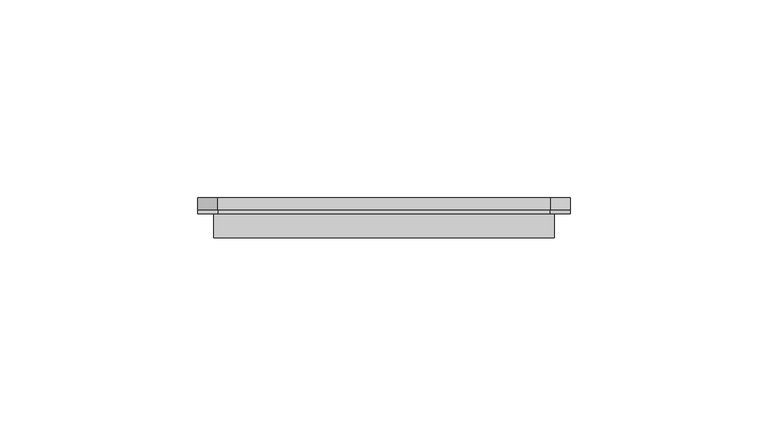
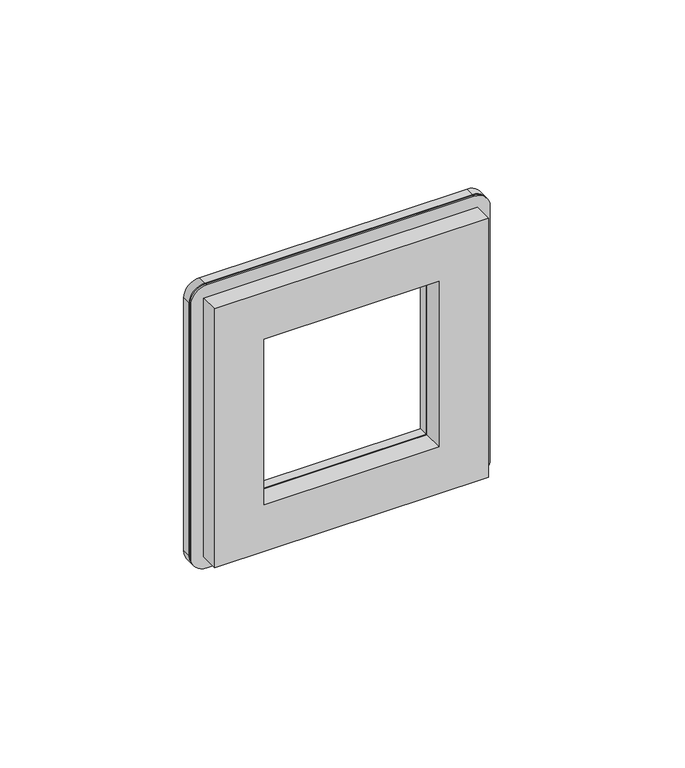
"""IFC4 building model written with IfcOpenShell, lengths in millimetres: proxy geometry, IEK_Brite_Рамка : x1_РУ-1-1-Бр металл алюм. RE."""

import ifcopenshell
import ifcopenshell.guid

model = None  # the IFC model being written
_history = None  # IfcOwnerHistory: only IFC2X3 demands one
_inside = {}  # id of a spatial element -> (the spatial element, [elements in it])
_under = {}  # id of a project, library or spatial element -> (it, [spatial elements below it])
_declared = {}  # id of a project -> (the project, [libraries it declares])
_typed = {}  # id of a type object -> (the type object, [elements of that type])
_made_of = {}  # id of a material, layer set ... -> (it, [elements and type objects made of it])


def new_model(schema):
    """Start an empty IFC model of exactly this schema.

    Asked for "IFC4X3", IfcOpenShell would pick the latest addendum, in which some entities
    have other attributes; the version numbers below select the first issue.
    IFC2X3 requires an IfcOwnerHistory on every rooted entity: one is made here for all.
    """
    global model, _history
    if schema == "IFC4X3":
        model = ifcopenshell.file(schema_version=(4, 3, 0, 0))
    else:
        model = ifcopenshell.file(schema=schema)
    _inside.clear()
    _under.clear()
    _declared.clear()
    _typed.clear()
    _made_of.clear()
    _history = None
    if model.schema == "IFC2X3":
        org = make("IfcOrganization", Name="unknown")
        user = make(
            "IfcPersonAndOrganization",
            ThePerson=make("IfcPerson", FamilyName="unknown"),
            TheOrganization=org,
        )
        app = make(
            "IfcApplication",
            ApplicationDeveloper=org,
            Version="unknown",
            ApplicationFullName="unknown",
            ApplicationIdentifier="unknown",
        )
        _history = make(
            "IfcOwnerHistory",
            OwningUser=user,
            OwningApplication=app,
            ChangeAction="ADDED",
            CreationDate=0,
        )
    return model


def make(cls, **values):
    """One entity of the class cls with the attributes given. An attribute that is None is left unset."""
    return model.create_entity(
        cls, **{name: value for name, value in values.items() if value is not None}
    )


def rooted(cls, **values):
    """An entity with a GlobalId (a new one), such as an element, a storey or a relation."""
    return make(cls, GlobalId=ifcopenshell.guid.new(), OwnerHistory=_history, **values)


def si_unit(unit_type, name, prefix=None):
    """IfcSIUnit, for example si_unit("LENGTHUNIT", "METRE", prefix="MILLI")."""
    return make("IfcSIUnit", UnitType=unit_type, Prefix=prefix, Name=name)


def assignment(units):
    """IfcUnitAssignment: the units of a project."""
    return None if units is None else make("IfcUnitAssignment", Units=units)


def point(xyz):
    """IfcCartesianPoint."""
    return None if xyz is None else make("IfcCartesianPoint", Coordinates=xyz)


def direction(xyz):
    """IfcDirection."""
    return None if xyz is None else make("IfcDirection", DirectionRatios=xyz)


def frame(location, z_axis=None, x_axis=None):
    """IfcAxis2Placement3D, a coordinate frame: its origin and axes. An axis left out is left unset."""
    return make(
        "IfcAxis2Placement3D",
        Location=point(location),
        Axis=direction(z_axis),
        RefDirection=direction(x_axis),
    )


def frame_2d(location, x_axis=None):
    """IfcAxis2Placement2D, a coordinate frame in the plane: its origin and x axis."""
    return make(
        "IfcAxis2Placement2D", Location=point(location), RefDirection=direction(x_axis)
    )


def origin():
    """The frame at (0, 0, 0) with its axes left unset."""
    return frame((0.0, 0.0, 0.0))


def place(relative_to, where):
    """IfcLocalPlacement: puts the frame where relative to a parent placement (None: the world)."""
    return make(
        "IfcLocalPlacement", PlacementRelTo=relative_to, RelativePlacement=where
    )


def context(
    kind, dimensions, precision=None, world=None, true_north=None, identifier=None
):
    """IfcGeometricRepresentationContext, for example the 3D "Model" context."""
    return make(
        "IfcGeometricRepresentationContext",
        ContextIdentifier=identifier,
        ContextType=kind,
        CoordinateSpaceDimension=dimensions,
        Precision=precision,
        WorldCoordinateSystem=world,
        TrueNorth=true_north,
    )


def project(units=None, contexts=None):
    """IfcProject with its units and contexts."""
    return rooted(
        "IfcProject",
        Name="project",
        RepresentationContexts=contexts,
        UnitsInContext=assignment(units),
    )


def spatial(cls, under=None, at=None, **own):
    """A site, building, storey or space (cls), placed at a placement, below another one or the project."""
    s = rooted(cls, ObjectPlacement=at, **own)
    if under is not None:
        _under.setdefault(under.id(), (under, []))[1].append(s)
    return s


def polyline(points):
    """IfcPolyline through the points."""
    return make("IfcPolyline", Points=[point(p) for p in points])


def circle_curve(where, radius):
    """IfcCircle in the frame where."""
    return make("IfcCircle", Position=where, Radius=radius)


def trimmed(basis, trim1, trim2, sense, master):
    """IfcTrimmedCurve: the piece of a basis curve between two trims."""
    return make(
        "IfcTrimmedCurve",
        BasisCurve=basis,
        Trim1=trim1,
        Trim2=trim2,
        SenseAgreement=sense,
        MasterRepresentation=master,
    )


def segment(curve, same_sense, transition):
    """IfcCompositeCurveSegment."""
    return make(
        "IfcCompositeCurveSegment",
        Transition=transition,
        SameSense=same_sense,
        ParentCurve=curve,
    )


def composite_curve(segments, self_intersect=None):
    """IfcCompositeCurve: segments joined end to end."""
    return make("IfcCompositeCurve", Segments=segments, SelfIntersect=self_intersect)


def outline(outer, holes=None, kind="AREA"):
    """IfcArbitraryClosedProfileDef: a profile drawn as a closed curve; with holes, ...WithVoids."""
    if holes is None:
        return make("IfcArbitraryClosedProfileDef", ProfileType=kind, OuterCurve=outer)
    return make(
        "IfcArbitraryProfileDefWithVoids",
        ProfileType=kind,
        OuterCurve=outer,
        InnerCurves=holes,
    )


def extrude(swept, where, along, depth):
    """IfcExtrudedAreaSolid: the profile swept, set in the frame where, extruded along a direction by depth."""
    return make(
        "IfcExtrudedAreaSolid",
        SweptArea=swept,
        Position=where,
        ExtrudedDirection=direction(along),
        Depth=depth,
    )


def shape(context_of_items, identifier, shape_type, items):
    """IfcShapeRepresentation: the items that make up one representation, for example the "Body"."""
    return make(
        "IfcShapeRepresentation",
        ContextOfItems=context_of_items,
        RepresentationIdentifier=identifier,
        RepresentationType=shape_type,
        Items=items,
    )


def source(mapping_origin, context_of_items, identifier, shape_type, items):
    """IfcRepresentationMap: a shape defined once, which mapped items show again and again."""
    return make(
        "IfcRepresentationMap",
        MappingOrigin=mapping_origin,
        MappedRepresentation=shape(context_of_items, identifier, shape_type, items),
    )


def transform(
    local_origin,
    x_axis=None,
    y_axis=None,
    z_axis=None,
    scale=None,
    scale2=None,
    scale3=None,
    uniform=True,
):
    """IfcCartesianTransformationOperator3D, or its non-uniform kind. x_axis, y_axis, z_axis: its Axis1, 2, 3."""
    if uniform:
        return make(
            "IfcCartesianTransformationOperator3D",
            Axis1=direction(x_axis),
            Axis2=direction(y_axis),
            LocalOrigin=point(local_origin),
            Scale=scale,
            Axis3=direction(z_axis),
        )
    return make(
        "IfcCartesianTransformationOperator3DnonUniform",
        Axis1=direction(x_axis),
        Axis2=direction(y_axis),
        LocalOrigin=point(local_origin),
        Scale=scale,
        Axis3=direction(z_axis),
        Scale2=scale2,
        Scale3=scale3,
    )


def mapped(mapping_source, mapping_target):
    """IfcMappedItem: shows the shape of a source again, moved by a transform."""
    return make(
        "IfcMappedItem", MappingSource=mapping_source, MappingTarget=mapping_target
    )


def made_of(thing, what):
    """Note that an element or type object is made of a material, layer set ...; save() writes the relation."""
    if what is not None:
        _made_of.setdefault(what.id(), (what, []))[1].append(thing)
    return thing


def element(
    cls,
    number,
    at=None,
    inside=None,
    cuts=None,
    type_object=None,
    material=None,
    context=None,
    identifier="Body",
    shape_type=None,
    held_by="IfcProductDefinitionShape",
    body=None,
    shapes=None,
    **own,
):
    """One element of the class cls, such as IfcWall. Its Tag is "e" and its number.

    at: its placement. inside: the storey or other place that contains it. cuts: it is an
    opening in that element (IfcRelVoidsElement). A single representation is given by context,
    identifier, shape_type and body (its items); several are given by shapes. held_by: the class
    of the entity that holds the representations. save() writes the other relations.
    """
    e = rooted(cls, Tag="e%d" % number, ObjectPlacement=at, **own)
    if body is not None:
        shapes = [shape(context, identifier, shape_type, body)]
    if shapes is not None:
        e.Representation = make(held_by, Representations=shapes)
    if inside is not None:
        _inside.setdefault(inside.id(), (inside, []))[1].append(e)
    if cuts is not None:
        rooted(
            "IfcRelVoidsElement", RelatingBuildingElement=cuts, RelatedOpeningElement=e
        )
    if type_object is not None:
        _typed.setdefault(type_object.id(), (type_object, []))[1].append(e)
    return made_of(e, material)


def aggregate(whole, parts):
    """IfcRelAggregates: a whole, such as a stair, and the parts it consists of."""
    return rooted("IfcRelAggregates", RelatingObject=whole, RelatedObjects=parts)


def save(model, path):
    """Write the relations noted so far, then the file.

    IfcRelAggregates (storeys below a building ...), IfcRelContainedInSpatialStructure (elements
    in a storey), IfcRelDefinesByType, IfcRelAssociatesMaterial and IfcRelDeclares: one each for
    every whole, place, type object, material and project.
    """
    for whole, parts in _under.values():
        aggregate(whole, parts)
    for where, things in _inside.values():
        rooted(
            "IfcRelContainedInSpatialStructure",
            RelatedElements=things,
            RelatingStructure=where,
        )
    for kind, things in _typed.values():
        rooted("IfcRelDefinesByType", RelatedObjects=things, RelatingType=kind)
    for what, things in _made_of.values():
        rooted("IfcRelAssociatesMaterial", RelatedObjects=things, RelatingMaterial=what)
    for by, libraries in _declared.values():
        rooted("IfcRelDeclares", RelatingContext=by, RelatedDefinitions=libraries)
    model.write(path)


def plane_surface(at):
    """IfcPlane: the flat surface through the origin of the frame at, square to its z axis."""
    return make("IfcPlane", Position=at)


def cylinder_surface(at, radius):
    """IfcCylindricalSurface: all points at the distance radius from the z axis of the frame at."""
    return make("IfcCylindricalSurface", Position=at, Radius=radius)


def advanced_brep(points, edges, surfaces, faces):
    """IfcAdvancedBrep: a solid bounded by faces that lie on surfaces and meet in shared edges.

    An edge is (start, end): straight between two places in points (the first is 0);
    or (start, end, curve); or (start, end, curve, False) where it runs against its curve.
    A face is (place in surfaces, loops), or (place, loops, False) where it looks against
    its surface's normal. A loop lists edges by number (the first is 1), with a minus sign
    where the edge is run from its end to its start. The first loop is the outer one.
    """
    corners = [point(p) for p in points]
    vertices = [make("IfcVertexPoint", VertexGeometry=c) for c in corners]
    made = []
    for start, end, *more in edges:
        made.append(
            make(
                "IfcEdgeCurve",
                EdgeStart=vertices[start],
                EdgeEnd=vertices[end],
                EdgeGeometry=more[0] if more else make("IfcPolyline", Points=[corners[start], corners[end]]),
                SameSense=more[1] if len(more) > 1 else True,
            )
        )
    hull = []
    for where, loops, *sense in faces:
        bounds = []
        for j, loop in enumerate(loops):
            ring = [make("IfcOrientedEdge", EdgeElement=made[abs(k) - 1], Orientation=k > 0) for k in loop]
            bounds.append(
                make(
                    "IfcFaceOuterBound" if j == 0 else "IfcFaceBound",
                    Bound=make("IfcEdgeLoop", EdgeList=ring),
                    Orientation=True,
                )
            )
        hull.append(make("IfcAdvancedFace", Bounds=bounds, FaceSurface=surfaces[where], SameSense=sense[0] if sense else True))
    return make("IfcAdvancedBrep", Outer=make("IfcClosedShell", CfsFaces=hull))


def electrical_fixtures_84155418(model_context):
    return source(origin(), model_context, "Body", "SolidModel", [
        extrude(outline(composite_curve([segment(trimmed(circle_curve(frame_2d((42.0, -42.0)), 5.0), [point((47.0, -42.0))], [point((42.0, -47.0))], False, "CARTESIAN"), True, "CONTINUOUS"), segment(polyline([(42.0, -47.0), (-42.0, -47.0)]), True, "CONTINUOUS"), segment(trimmed(circle_curve(frame_2d((-42.0, -42.0)), 5.0), [point((-42.0, -47.0))], [point((-47.0, -42.0))], False, "CARTESIAN"), True, "CONTINUOUS"), segment(polyline([(-47.0, -42.0), (-47.0, 42.0)]), True, "CONTINUOUS"), segment(trimmed(circle_curve(frame_2d((-42.0, 42.0)), 5.0), [point((-47.0, 42.0))], [point((-42.0, 47.0))], False, "CARTESIAN"), True, "CONTINUOUS"), segment(polyline([(-42.0, 47.0), (42.0, 47.0)]), True, "CONTINUOUS"), segment(trimmed(circle_curve(frame_2d((42.0, 42.0)), 5.0), [point((42.0, 47.0))], [point((47.0, 42.0))], False, "CARTESIAN"), True, "CONTINUOUS"), segment(polyline([(47.0, 42.0), (47.0, -42.0)]), True, "CONTINUOUS")], self_intersect=False), holes=[polyline([(-27.5, -27.5), (27.5, -27.5), (27.5, 27.5), (-27.5, 27.5), (-27.5, -27.5)])]), frame((0.0, 7.0, 0.0), z_axis=(0.0, 1.0, 0.0), x_axis=(0.0, 0.0, 1.0)), (0.0, 0.0, 1.0), 3.0),
        advanced_brep(
        [(-42.0, 7.0, 47.0), (42.0, 7.0, 47.0), (47.0, 7.0, 42.0), (47.0, 7.0, -42.0), (42.0, 7.0, -47.0), (-42.0, 7.0, -47.0), (-47.0, 7.0, -42.0), (-47.0, 7.0, 42.0), (-27.5, 7.0, 27.5), (-27.5, 7.0, -27.5), (27.5, 7.0, -27.5), (27.5, 7.0, 27.5), (-43.0, 0.0, 43.0), (-43.0, 0.0, -43.0), (43.0, 0.0, -43.0), (43.0, 0.0, 43.0), (-27.5, 0.0, -27.5), (-27.5, 0.0, 27.5), (27.5, 0.0, 27.5), (27.5, 0.0, -27.5), (-43.0, 6.0, 43.0), (-43.0, 6.0, -43.0), (43.0, 6.0, -43.0), (43.0, 6.0, 43.0), (-42.0, 6.0, 47.0), (-47.0, 6.0, 42.0), (-47.0, 6.0, -42.0), (-42.0, 6.0, -47.0), (42.0, 6.0, -47.0), (47.0, 6.0, -42.0), (47.0, 6.0, 42.0), (42.0, 6.0, 47.0)],
        [
            (0, 1),
            (1, 2, circle_curve(frame((42.0, 7.0, 42.0), z_axis=(0.0, 1.0, 0.0), x_axis=(1.0, 0.0, 0.0)), 5.0)),
            (2, 3),
            (3, 4, circle_curve(frame((42.0, 7.0, -42.0), z_axis=(0.0, 1.0, 0.0), x_axis=(1.0, 0.0, 0.0)), 5.0)),
            (4, 5),
            (5, 6, circle_curve(frame((-42.0, 7.0, -42.0), z_axis=(0.0, 1.0, 0.0), x_axis=(1.0, 0.0, 0.0)), 5.0)),
            (6, 7),
            (7, 0, circle_curve(frame((-42.0, 7.0, 42.0), z_axis=(0.0, 1.0, 0.0), x_axis=(1.0, 0.0, 0.0)), 5.0)),
            (8, 9),
            (9, 10),
            (10, 11),
            (11, 8),
            (12, 13),
            (13, 14),
            (14, 15),
            (15, 12),
            (16, 17),
            (17, 18),
            (18, 19),
            (19, 16),
            (12, 20),
            (20, 21),
            (21, 13),
            (21, 22),
            (22, 14),
            (22, 23),
            (23, 15),
            (23, 20),
            (24, 25, circle_curve(frame((-42.0, 6.0, 42.0), z_axis=(0.0, -1.0, 0.0), x_axis=(1.0, 0.0, 0.0)), 5.0)),
            (25, 26),
            (26, 27, circle_curve(frame((-42.0, 6.0, -42.0), z_axis=(0.0, -1.0, 0.0), x_axis=(1.0, 0.0, 0.0)), 5.0)),
            (27, 28),
            (28, 29, circle_curve(frame((42.0, 6.0, -42.0), z_axis=(0.0, -1.0, 0.0), x_axis=(1.0, 0.0, 0.0)), 5.0)),
            (29, 30),
            (30, 31, circle_curve(frame((42.0, 6.0, 42.0), z_axis=(0.0, -1.0, 0.0), x_axis=(1.0, 0.0, 0.0)), 5.0)),
            (31, 24),
            (24, 0),
            (7, 25),
            (6, 26),
            (5, 27),
            (4, 28),
            (3, 29),
            (2, 30),
            (1, 31),
            (8, 17),
            (16, 9),
            (19, 10),
            (18, 11),
        ],
        [
            plane_surface(frame((-43.0, 7.0, 43.0), z_axis=(0.0, 1.0, 0.0), x_axis=(0.0, 0.0, 1.0))),
            plane_surface(frame((-43.0, 0.0, 43.0), z_axis=(0.0, -1.0, 0.0), x_axis=(0.0, 0.0, -1.0))),
            plane_surface(frame((-43.0, 0.0, 43.0), z_axis=(-1.0, 0.0, 0.0), x_axis=(0.0, 1.0, 0.0))),
            plane_surface(frame((-43.0, 0.0, -43.0), z_axis=(0.0, 0.0, -1.0), x_axis=(0.0, 1.0, 0.0))),
            plane_surface(frame((43.0, 0.0, -43.0), z_axis=(1.0, 0.0, 0.0), x_axis=(0.0, 1.0, 0.0))),
            plane_surface(frame((43.0, 0.0, 43.0), z_axis=(0.0, 0.0, 1.0), x_axis=(0.0, 1.0, 0.0))),
            plane_surface(frame((-37.0, 6.0, 42.0), z_axis=(0.0, -1.0, 0.0), x_axis=(0.0, 0.0, 1.0))),
            cylinder_surface(frame((-42.0, 7.0, 42.0), z_axis=(0.0, -1.0, 0.0), x_axis=(1.0, 0.0, 0.0)), 5.0),
            plane_surface(frame((-47.0, 6.0, 42.0), z_axis=(-1.0, 0.0, 0.0), x_axis=(0.0, 1.0, 0.0))),
            cylinder_surface(frame((-42.0, 7.0, -42.0), z_axis=(0.0, -1.0, 0.0), x_axis=(1.0, 0.0, 0.0)), 5.0),
            plane_surface(frame((-42.0, 6.0, -47.0), z_axis=(0.0, 0.0, -1.0), x_axis=(0.0, 1.0, 0.0))),
            cylinder_surface(frame((42.0, 7.0, -42.0), z_axis=(0.0, -1.0, 0.0), x_axis=(1.0, 0.0, 0.0)), 5.0),
            plane_surface(frame((47.0, 6.0, -42.0), z_axis=(1.0, 0.0, 0.0), x_axis=(0.0, 1.0, 0.0))),
            cylinder_surface(frame((42.0, 7.0, 42.0), z_axis=(0.0, -1.0, 0.0), x_axis=(1.0, 0.0, 0.0)), 5.0),
            plane_surface(frame((42.0, 6.0, 47.0), z_axis=(0.0, 0.0, 1.0), x_axis=(0.0, 1.0, 0.0))),
            plane_surface(frame((-27.5, 0.0, 27.5), z_axis=(1.0, 0.0, 0.0), x_axis=(0.0, 1.0, 0.0))),
            plane_surface(frame((-27.5, 0.0, -27.5), z_axis=(0.0, 0.0, 1.0), x_axis=(0.0, 1.0, 0.0))),
            plane_surface(frame((27.5, 0.0, -27.5), z_axis=(-1.0, 0.0, 0.0), x_axis=(0.0, 1.0, 0.0))),
            plane_surface(frame((27.5, 0.0, 27.5), z_axis=(0.0, 0.0, -1.0), x_axis=(0.0, 1.0, 0.0))),
        ],
        [
            (0, [[1, 2, 3, 4, 5, 6, 7, 8], [9, 10, 11, 12]]),
            (1, [[13, 14, 15, 16], [17, 18, 19, 20]]),
            (2, [[-13, 21, 22, 23]]),
            (3, [[-14, -23, 24, 25]]),
            (4, [[-15, -25, 26, 27]]),
            (5, [[-16, -27, 28, -21]]),
            (6, [[29, 30, 31, 32, 33, 34, 35, 36], [-22, -28, -26, -24]]),
            (7, [[-29, 37, -8, 38]]),
            (8, [[-30, -38, -7, 39]]),
            (9, [[-31, -39, -6, 40]]),
            (10, [[-32, -40, -5, 41]]),
            (11, [[-33, -41, -4, 42]]),
            (12, [[-34, -42, -3, 43]]),
            (13, [[-35, -43, -2, 44]]),
            (14, [[-36, -44, -1, -37]]),
            (15, [[45, -17, 46, -9]]),
            (16, [[-46, -20, 47, -10]]),
            (17, [[-47, -19, 48, -11]]),
            (18, [[-45, -12, -48, -18]]),
        ],
    ),
    ])


if __name__ == "__main__":
    model = new_model("IFC4")
    model_context = context("Model", 3, world=origin())
    ifc_project = project(units=[si_unit("LENGTHUNIT", "METRE", prefix="MILLI")], contexts=[model_context])
    site = spatial("IfcSite", under=ifc_project)
    building = spatial("IfcBuilding", under=site)
    placement = place(None, origin())
    electrical_fixtures_shape = electrical_fixtures_84155418(model_context)
    element("IfcBuildingElementProxy", 1, Name="IEK_Brite_Рамка : x1_РУ-1-1-Бр металл алюм. RE", ObjectType="IEK_Brite_Рамка : x1_РУ-1-1-Бр металл алюм. RE", at=placement, inside=building, context=model_context, shape_type="MappedRepresentation", body=[
        mapped(electrical_fixtures_shape, transform((0.0, 0.0, 0.0), x_axis=(1.0, 0.0, 0.0), y_axis=(0.0, 1.0, 0.0), z_axis=(0.0, 0.0, 1.0))),
    ])
    save(model, "model.ifc")
